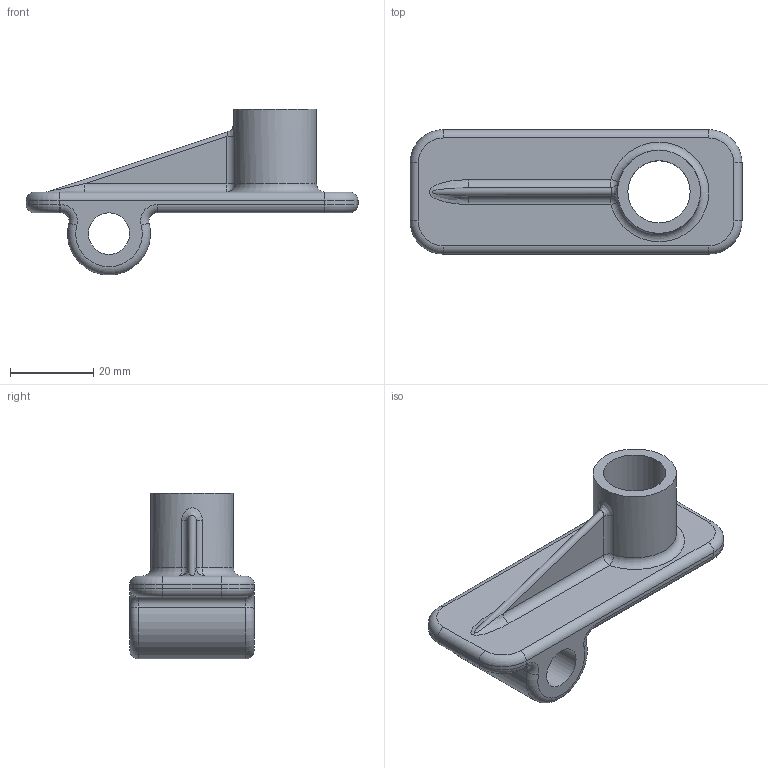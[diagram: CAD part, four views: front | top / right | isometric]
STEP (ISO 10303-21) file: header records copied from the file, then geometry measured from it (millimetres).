
FILE_DESCRIPTION(/* description */ (''),/* implementation_level */ '2;1');
FILE_NAME(/* name */ '2024 model mania phase 1.step',/* time_stamp */ '2026-07-13T21:25:45+01:00',/* author */ (''),/* organization */ (''),/* preprocessor_version */ 'ST-DEVELOPER v20.1',/* originating_system */ 'Autodesk Translation Framework v15.8.0.0',/* authorisation */ '');
FILE_SCHEMA (('AUTOMOTIVE_DESIGN { 1 0 10303 214 3 1 1 }'));
Length unit declared in the file: millimetre
Products named in the file (1): 2024 model mania phase 1
Bounding box: 80 x 30 x 39.96 mm (x, y, z)
Volume: 19334.9 mm3; surface area: 9797.6 mm2
Topology: 1 solids, 1 shells, 54 faces, 119 edges, 68 vertices
Faces by surface type: cylinder 25, torus 15, plane 10, sphere 2, bspline 2
Full cylindrical faces by diameter (mm): 10 x1, 15 x1, 20 x1
Entity records: 1637 total; most frequent: CARTESIAN_POINT 365, DIRECTION 295, ORIENTED_EDGE 238, AXIS2_PLACEMENT_3D 125, EDGE_CURVE 119, CIRCLE 70, VERTEX_POINT 68, EDGE_LOOP 59
